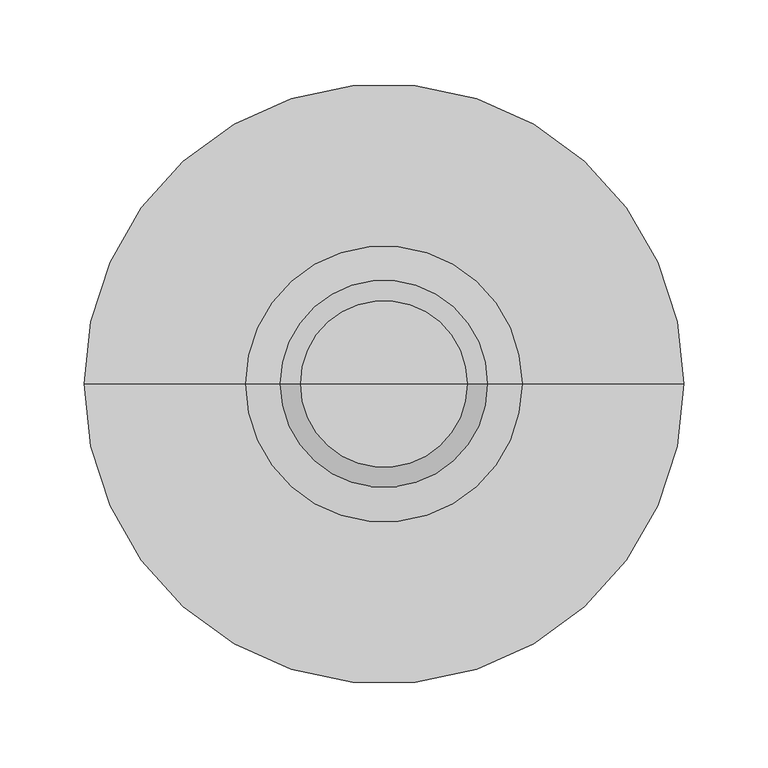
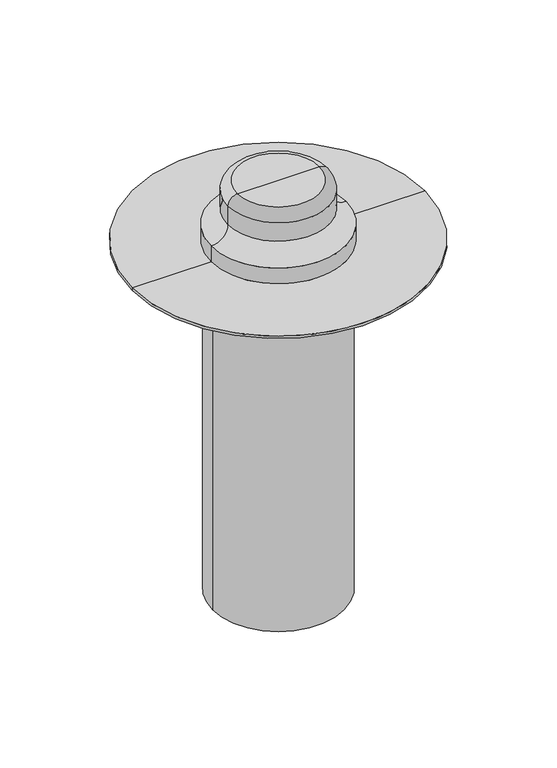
"""IFC4 building model written with IfcOpenShell, lengths in millimetres: flow terminal geometry, BIMLIB_Воронка_Кровельная_Fachmann_VM : 160х450."""

import ifcopenshell
import ifcopenshell.guid

model = None  # the IFC model being written
_history = None  # IfcOwnerHistory: only IFC2X3 demands one
_inside = {}  # id of a spatial element -> (the spatial element, [elements in it])
_under = {}  # id of a project, library or spatial element -> (it, [spatial elements below it])
_declared = {}  # id of a project -> (the project, [libraries it declares])
_typed = {}  # id of a type object -> (the type object, [elements of that type])
_made_of = {}  # id of a material, layer set ... -> (it, [elements and type objects made of it])


def new_model(schema):
    """Start an empty IFC model of exactly this schema.

    Asked for "IFC4X3", IfcOpenShell would pick the latest addendum, in which some entities
    have other attributes; the version numbers below select the first issue.
    IFC2X3 requires an IfcOwnerHistory on every rooted entity: one is made here for all.
    """
    global model, _history
    if schema == "IFC4X3":
        model = ifcopenshell.file(schema_version=(4, 3, 0, 0))
    else:
        model = ifcopenshell.file(schema=schema)
    _inside.clear()
    _under.clear()
    _declared.clear()
    _typed.clear()
    _made_of.clear()
    _history = None
    if model.schema == "IFC2X3":
        org = make("IfcOrganization", Name="unknown")
        user = make(
            "IfcPersonAndOrganization",
            ThePerson=make("IfcPerson", FamilyName="unknown"),
            TheOrganization=org,
        )
        app = make(
            "IfcApplication",
            ApplicationDeveloper=org,
            Version="unknown",
            ApplicationFullName="unknown",
            ApplicationIdentifier="unknown",
        )
        _history = make(
            "IfcOwnerHistory",
            OwningUser=user,
            OwningApplication=app,
            ChangeAction="ADDED",
            CreationDate=0,
        )
    return model


def make(cls, **values):
    """One entity of the class cls with the attributes given. An attribute that is None is left unset."""
    return model.create_entity(
        cls, **{name: value for name, value in values.items() if value is not None}
    )


def rooted(cls, **values):
    """An entity with a GlobalId (a new one), such as an element, a storey or a relation."""
    return make(cls, GlobalId=ifcopenshell.guid.new(), OwnerHistory=_history, **values)


def si_unit(unit_type, name, prefix=None):
    """IfcSIUnit, for example si_unit("LENGTHUNIT", "METRE", prefix="MILLI")."""
    return make("IfcSIUnit", UnitType=unit_type, Prefix=prefix, Name=name)


def assignment(units):
    """IfcUnitAssignment: the units of a project."""
    return None if units is None else make("IfcUnitAssignment", Units=units)


def point(xyz):
    """IfcCartesianPoint."""
    return None if xyz is None else make("IfcCartesianPoint", Coordinates=xyz)


def direction(xyz):
    """IfcDirection."""
    return None if xyz is None else make("IfcDirection", DirectionRatios=xyz)


def frame(location, z_axis=None, x_axis=None):
    """IfcAxis2Placement3D, a coordinate frame: its origin and axes. An axis left out is left unset."""
    return make(
        "IfcAxis2Placement3D",
        Location=point(location),
        Axis=direction(z_axis),
        RefDirection=direction(x_axis),
    )


def origin():
    """The frame at (0, 0, 0) with its axes left unset."""
    return frame((0.0, 0.0, 0.0))


def origin_with_axes():
    """The frame at (0, 0, 0) with the z axis (0, 0, 1) and the x axis (1, 0, 0) written out."""
    return frame((0.0, 0.0, 0.0), z_axis=(0.0, 0.0, 1.0), x_axis=(1.0, 0.0, 0.0))


def place(relative_to, where):
    """IfcLocalPlacement: puts the frame where relative to a parent placement (None: the world)."""
    return make(
        "IfcLocalPlacement", PlacementRelTo=relative_to, RelativePlacement=where
    )


def context(
    kind, dimensions, precision=None, world=None, true_north=None, identifier=None
):
    """IfcGeometricRepresentationContext, for example the 3D "Model" context."""
    return make(
        "IfcGeometricRepresentationContext",
        ContextIdentifier=identifier,
        ContextType=kind,
        CoordinateSpaceDimension=dimensions,
        Precision=precision,
        WorldCoordinateSystem=world,
        TrueNorth=true_north,
    )


def project(units=None, contexts=None):
    """IfcProject with its units and contexts."""
    return rooted(
        "IfcProject",
        Name="project",
        RepresentationContexts=contexts,
        UnitsInContext=assignment(units),
    )


def spatial(cls, under=None, at=None, **own):
    """A site, building, storey or space (cls), placed at a placement, below another one or the project."""
    s = rooted(cls, ObjectPlacement=at, **own)
    if under is not None:
        _under.setdefault(under.id(), (under, []))[1].append(s)
    return s


def polyline(points):
    """IfcPolyline through the points."""
    return make("IfcPolyline", Points=[point(p) for p in points])


def circle_curve(where, radius):
    """IfcCircle in the frame where."""
    return make("IfcCircle", Position=where, Radius=radius)


def ellipse_curve(where, semi_axis1, semi_axis2):
    """IfcEllipse in the frame where."""
    return make(
        "IfcEllipse", Position=where, SemiAxis1=semi_axis1, SemiAxis2=semi_axis2
    )


def trimmed(basis, trim1, trim2, sense, master):
    """IfcTrimmedCurve: the piece of a basis curve between two trims."""
    return make(
        "IfcTrimmedCurve",
        BasisCurve=basis,
        Trim1=trim1,
        Trim2=trim2,
        SenseAgreement=sense,
        MasterRepresentation=master,
    )


def shape(context_of_items, identifier, shape_type, items):
    """IfcShapeRepresentation: the items that make up one representation, for example the "Body"."""
    return make(
        "IfcShapeRepresentation",
        ContextOfItems=context_of_items,
        RepresentationIdentifier=identifier,
        RepresentationType=shape_type,
        Items=items,
    )


def source(mapping_origin, context_of_items, identifier, shape_type, items):
    """IfcRepresentationMap: a shape defined once, which mapped items show again and again."""
    return make(
        "IfcRepresentationMap",
        MappingOrigin=mapping_origin,
        MappedRepresentation=shape(context_of_items, identifier, shape_type, items),
    )


def transform(
    local_origin,
    x_axis=None,
    y_axis=None,
    z_axis=None,
    scale=None,
    scale2=None,
    scale3=None,
    uniform=True,
):
    """IfcCartesianTransformationOperator3D, or its non-uniform kind. x_axis, y_axis, z_axis: its Axis1, 2, 3."""
    if uniform:
        return make(
            "IfcCartesianTransformationOperator3D",
            Axis1=direction(x_axis),
            Axis2=direction(y_axis),
            LocalOrigin=point(local_origin),
            Scale=scale,
            Axis3=direction(z_axis),
        )
    return make(
        "IfcCartesianTransformationOperator3DnonUniform",
        Axis1=direction(x_axis),
        Axis2=direction(y_axis),
        LocalOrigin=point(local_origin),
        Scale=scale,
        Axis3=direction(z_axis),
        Scale2=scale2,
        Scale3=scale3,
    )


def mapped(mapping_source, mapping_target):
    """IfcMappedItem: shows the shape of a source again, moved by a transform."""
    return make(
        "IfcMappedItem", MappingSource=mapping_source, MappingTarget=mapping_target
    )


def made_of(thing, what):
    """Note that an element or type object is made of a material, layer set ...; save() writes the relation."""
    if what is not None:
        _made_of.setdefault(what.id(), (what, []))[1].append(thing)
    return thing


def element(
    cls,
    number,
    at=None,
    inside=None,
    cuts=None,
    type_object=None,
    material=None,
    context=None,
    identifier="Body",
    shape_type=None,
    held_by="IfcProductDefinitionShape",
    body=None,
    shapes=None,
    **own,
):
    """One element of the class cls, such as IfcWall. Its Tag is "e" and its number.

    at: its placement. inside: the storey or other place that contains it. cuts: it is an
    opening in that element (IfcRelVoidsElement). A single representation is given by context,
    identifier, shape_type and body (its items); several are given by shapes. held_by: the class
    of the entity that holds the representations. save() writes the other relations.
    """
    e = rooted(cls, Tag="e%d" % number, ObjectPlacement=at, **own)
    if body is not None:
        shapes = [shape(context, identifier, shape_type, body)]
    if shapes is not None:
        e.Representation = make(held_by, Representations=shapes)
    if inside is not None:
        _inside.setdefault(inside.id(), (inside, []))[1].append(e)
    if cuts is not None:
        rooted(
            "IfcRelVoidsElement", RelatingBuildingElement=cuts, RelatedOpeningElement=e
        )
    if type_object is not None:
        _typed.setdefault(type_object.id(), (type_object, []))[1].append(e)
    return made_of(e, material)


def aggregate(whole, parts):
    """IfcRelAggregates: a whole, such as a stair, and the parts it consists of."""
    return rooted("IfcRelAggregates", RelatingObject=whole, RelatedObjects=parts)


def save(model, path):
    """Write the relations noted so far, then the file.

    IfcRelAggregates (storeys below a building ...), IfcRelContainedInSpatialStructure (elements
    in a storey), IfcRelDefinesByType, IfcRelAssociatesMaterial and IfcRelDeclares: one each for
    every whole, place, type object, material and project.
    """
    for whole, parts in _under.values():
        aggregate(whole, parts)
    for where, things in _inside.values():
        rooted(
            "IfcRelContainedInSpatialStructure",
            RelatedElements=things,
            RelatingStructure=where,
        )
    for kind, things in _typed.values():
        rooted("IfcRelDefinesByType", RelatedObjects=things, RelatingType=kind)
    for what, things in _made_of.values():
        rooted("IfcRelAssociatesMaterial", RelatedObjects=things, RelatingMaterial=what)
    for by, libraries in _declared.values():
        rooted("IfcRelDeclares", RelatingContext=by, RelatedDefinitions=libraries)
    model.write(path)


def plane_surface(at):
    """IfcPlane: the flat surface through the origin of the frame at, square to its z axis."""
    return make("IfcPlane", Position=at)


def cylinder_surface(at, radius):
    """IfcCylindricalSurface: all points at the distance radius from the z axis of the frame at."""
    return make("IfcCylindricalSurface", Position=at, Radius=radius)


def revolved_surface(curve, axis_point, axis_direction):
    """IfcSurfaceOfRevolution: the curve turned about the line through axis_point along axis_direction."""
    return make(
        "IfcSurfaceOfRevolution",
        SweptCurve=make("IfcArbitraryOpenProfileDef", ProfileType="CURVE", Curve=curve),
        AxisPosition=make("IfcAxis1Placement", Location=point(axis_point), Axis=direction(axis_direction)),
    )


def advanced_brep(points, edges, surfaces, faces):
    """IfcAdvancedBrep: a solid bounded by faces that lie on surfaces and meet in shared edges.

    An edge is (start, end): straight between two places in points (the first is 0);
    or (start, end, curve); or (start, end, curve, False) where it runs against its curve.
    A face is (place in surfaces, loops), or (place, loops, False) where it looks against
    its surface's normal. A loop lists edges by number (the first is 1), with a minus sign
    where the edge is run from its end to its start. The first loop is the outer one.
    """
    corners = [point(p) for p in points]
    vertices = [make("IfcVertexPoint", VertexGeometry=c) for c in corners]
    made = []
    for start, end, *more in edges:
        made.append(
            make(
                "IfcEdgeCurve",
                EdgeStart=vertices[start],
                EdgeEnd=vertices[end],
                EdgeGeometry=more[0] if more else make("IfcPolyline", Points=[corners[start], corners[end]]),
                SameSense=more[1] if len(more) > 1 else True,
            )
        )
    hull = []
    for where, loops, *sense in faces:
        bounds = []
        for j, loop in enumerate(loops):
            ring = [make("IfcOrientedEdge", EdgeElement=made[abs(k) - 1], Orientation=k > 0) for k in loop]
            bounds.append(
                make(
                    "IfcFaceOuterBound" if j == 0 else "IfcFaceBound",
                    Bound=make("IfcEdgeLoop", EdgeList=ring),
                    Orientation=True,
                )
            )
        hull.append(make("IfcAdvancedFace", Bounds=bounds, FaceSurface=surfaces[where], SameSense=sense[0] if sense else True))
    return make("IfcAdvancedBrep", Outer=make("IfcClosedShell", CfsFaces=hull))


def flow_terminal_511c6f57(model_context):
    return source(origin(), model_context, "Body", "AdvancedBrep", [
        advanced_brep(
        [(80.0, 0.0, -445.0), (-80.0, 0.0, -445.0), (-80.0, 0.0, -57.0), (80.0, 0.0, -57.0), (-113.0, 0.0, -9.0), (113.0, 0.0, -9.0), (113.0, 0.0, -32.0), (-113.0, 0.0, -32.0), (0.0, 0.0, 0.0), (138.0, 0.0, 0.0), (-138.0, 0.0, 0.0), (-90.0, 0.0, -32.0), (90.0, 0.0, -32.0), (90.0, 0.0, -40.0), (-90.0, 0.0, -40.0)],
        [
            (0, 1, circle_curve(frame((0.0, 0.0, -445.0), z_axis=(0.0, 0.0, -1.0), x_axis=(-1.0, 0.0, 0.0)), 80.0)),
            (1, 0, circle_curve(frame((0.0, 0.0, -445.0), z_axis=(0.0, 0.0, -1.0), x_axis=(-1.0, 0.0, 0.0)), 80.0)),
            (1, 2),
            (2, 3, circle_curve(frame((0.0, 0.0, -57.0), z_axis=(0.0, 0.0, -1.0), x_axis=(-1.0, 0.0, 0.0)), 80.0)),
            (3, 0),
            (3, 2, circle_curve(frame((0.0, 0.0, -57.0), z_axis=(0.0, 0.0, -1.0), x_axis=(-1.0, 0.0, 0.0)), 80.0)),
            (4, 5, circle_curve(frame((0.0, 0.0, -9.0), z_axis=(0.0, 0.0, -1.0), x_axis=(1.0, 0.0, 0.0)), 113.0)),
            (5, 6),
            (6, 7, circle_curve(frame((0.0, 0.0, -32.0), z_axis=(0.0, 0.0, 1.0), x_axis=(1.0, 0.0, 0.0)), 113.0)),
            (7, 4),
            (5, 4, circle_curve(frame((0.0, 0.0, -9.0), z_axis=(0.0, 0.0, -1.0), x_axis=(1.0, 0.0, 0.0)), 113.0)),
            (7, 6, circle_curve(frame((0.0, 0.0, -32.0), z_axis=(0.0, 0.0, 1.0), x_axis=(1.0, 0.0, 0.0)), 113.0)),
            (8, 9),
            (9, 10, circle_curve(origin_with_axes(), 138.0)),
            (10, 8),
            (10, 9, circle_curve(origin_with_axes(), 138.0)),
            (4, 10),
            (9, 5),
            (11, 12, circle_curve(frame((0.0, 0.0, -32.0), z_axis=(0.0, 0.0, -1.0), x_axis=(1.0, 0.0, 0.0)), 90.0)),
            (12, 13),
            (13, 14, circle_curve(frame((0.0, 0.0, -40.0), z_axis=(0.0, 0.0, 1.0), x_axis=(1.0, 0.0, 0.0)), 90.0)),
            (14, 11),
            (12, 11, circle_curve(frame((0.0, 0.0, -32.0), z_axis=(0.0, 0.0, -1.0), x_axis=(1.0, 0.0, 0.0)), 90.0)),
            (14, 13, circle_curve(frame((0.0, 0.0, -40.0), z_axis=(0.0, 0.0, 1.0), x_axis=(1.0, 0.0, 0.0)), 90.0)),
            (6, 12),
            (11, 7),
            (13, 3),
            (2, 14),
        ],
        [
            plane_surface(frame((-80.0, 0.0, -445.0), z_axis=(0.0, 0.0, -1.0), x_axis=(0.0, 1.0, 0.0))),
            cylinder_surface(frame((0.0, 0.0, -445.0), z_axis=(0.0, 0.0, 1.0), x_axis=(-1.0, 0.0, 0.0)), 80.0),
            cylinder_surface(frame((0.0, 0.0, 159.0), z_axis=(0.0, 0.0, 1.0), x_axis=(1.0, 0.0, 0.0)), 113.0),
            plane_surface(origin_with_axes()),
            revolved_surface(polyline([(113.0, 0.0, -9.0), (138.0, 0.0, 0.0)]), (0.0, 0.0, 159.0), (0.0, 0.0, 1.0)),
            cylinder_surface(frame((0.0, 0.0, 159.0), z_axis=(0.0, 0.0, 1.0), x_axis=(1.0, 0.0, 0.0)), 90.0),
            plane_surface(frame((0.0, 0.0, -32.0), z_axis=(0.0, 0.0, -1.0), x_axis=(1.0, 0.0, 0.0))),
            revolved_surface(polyline([(80.0, 0.0, -57.0), (90.0, 0.0, -40.0)]), (0.0, 0.0, 159.0), (0.0, 0.0, 1.0)),
        ],
        [
            (0, [[1, 2]]),
            (1, [[-2, 3, 4, 5]]),
            (1, [[-1, -5, 6, -3]]),
            (2, [[7, 8, 9, 10]]),
            (2, [[-8, 11, -10, 12]]),
            (3, [[13, 14, 15]]),
            (3, [[-13, -15, 16]]),
            (4, [[-7, 17, -14, 18]]),
            (4, [[-11, -18, -16, -17]]),
            (5, [[19, 20, 21, 22]]),
            (5, [[-20, 23, -22, 24]]),
            (6, [[-9, 25, -19, 26]]),
            (6, [[-12, -26, -23, -25]]),
            (7, [[-21, 27, -4, 28]]),
            (7, [[-24, -28, -6, -27]]),
        ],
    ),
        advanced_brep(
        [(0.0, 0.0, 79.0), (49.5, 0.0, 79.0), (-49.5, 0.0, 79.0), (-178.0, 0.0, 0.0), (178.0, 0.0, 0.0), (0.0, 0.0, 0.0), (-178.0, 0.0, 3.0), (178.0, 0.0, 3.0), (-82.0, 0.0, 3.0), (82.0, 0.0, 3.0), (-61.5, 0.0, 67.0), (61.5, 0.0, 67.0), (61.5, 0.0, 43.5), (-61.5, 0.0, 43.5), (-82.0, 0.0, 23.0), (82.0, 0.0, 23.0)],
        [
            (0, 1),
            (1, 2, circle_curve(frame((0.0, 0.0, 79.0), z_axis=(0.0, 0.0, 1.0), x_axis=(1.0, 0.0, 0.0)), 49.5)),
            (2, 0),
            (2, 1, circle_curve(frame((0.0, 0.0, 79.0), z_axis=(0.0, 0.0, 1.0), x_axis=(1.0, 0.0, 0.0)), 49.5)),
            (3, 4, circle_curve(frame((0.0, 0.0, 0.0), z_axis=(0.0, 0.0, -1.0), x_axis=(1.0, 0.0, 0.0)), 178.0)),
            (4, 5),
            (5, 3),
            (4, 3, circle_curve(frame((0.0, 0.0, 0.0), z_axis=(0.0, 0.0, -1.0), x_axis=(1.0, 0.0, 0.0)), 178.0)),
            (6, 7, circle_curve(frame((0.0, 0.0, 3.0), z_axis=(0.0, 0.0, -1.0), x_axis=(1.0, 0.0, 0.0)), 178.0)),
            (7, 4),
            (3, 6),
            (7, 6, circle_curve(frame((0.0, 0.0, 3.0), z_axis=(0.0, 0.0, -1.0), x_axis=(1.0, 0.0, 0.0)), 178.0)),
            (8, 9, circle_curve(frame((0.0, 0.0, 3.0), z_axis=(0.0, 0.0, -1.0), x_axis=(1.0, 0.0, 0.0)), 82.0)),
            (9, 7),
            (6, 8),
            (9, 8, circle_curve(frame((0.0, 0.0, 3.0), z_axis=(0.0, 0.0, -1.0), x_axis=(1.0, 0.0, 0.0)), 82.0)),
            (10, 11, circle_curve(frame((0.0, 0.0, 67.0), z_axis=(0.0, 0.0, -1.0), x_axis=(1.0, 0.0, 0.0)), 61.5)),
            (11, 12),
            (12, 13, circle_curve(frame((0.0, 0.0, 43.5), z_axis=(0.0, 0.0, 1.0), x_axis=(1.0, 0.0, 0.0)), 61.5)),
            (13, 10),
            (11, 10, circle_curve(frame((0.0, 0.0, 67.0), z_axis=(0.0, 0.0, -1.0), x_axis=(1.0, 0.0, 0.0)), 61.5)),
            (13, 12, circle_curve(frame((0.0, 0.0, 43.5), z_axis=(0.0, 0.0, 1.0), x_axis=(1.0, 0.0, 0.0)), 61.5)),
            (1, 11, circle_curve(frame((49.5, 0.0, 67.0), z_axis=(0.0, 1.0, 0.0), x_axis=(1.0, 0.0, 0.0)), 12.0)),
            (10, 2, circle_curve(frame((-49.5, 0.0, 67.0), z_axis=(0.0, 1.0, 0.0), x_axis=(-1.0, 0.0, 0.0)), 12.0)),
            (14, 15, circle_curve(frame((0.0, 0.0, 23.0), z_axis=(0.0, 0.0, -1.0), x_axis=(1.0, 0.0, 0.0)), 82.0)),
            (15, 9),
            (8, 14),
            (15, 14, circle_curve(frame((0.0, 0.0, 23.0), z_axis=(0.0, 0.0, -1.0), x_axis=(1.0, 0.0, 0.0)), 82.0)),
            (12, 15, circle_curve(frame((82.0, 0.0, 43.5), z_axis=(0.0, -1.0, 0.0), x_axis=(1.0, 0.0, 0.0)), 20.5)),
            (14, 13, circle_curve(frame((-82.0, 0.0, 43.5), z_axis=(0.0, -1.0, 0.0), x_axis=(-1.0, 0.0, 0.0)), 20.5)),
        ],
        [
            plane_surface(frame((0.0, 0.0, 79.0), z_axis=(0.0, 0.0, 1.0), x_axis=(1.0, 0.0, 0.0))),
            plane_surface(frame((0.0, 0.0, 0.0), z_axis=(0.0, 0.0, -1.0), x_axis=(1.0, 0.0, 0.0))),
            cylinder_surface(frame((0.0, 0.0, 229.0), z_axis=(0.0, 0.0, 1.0), x_axis=(1.0, 0.0, 0.0)), 178.0),
            plane_surface(frame((0.0, 0.0, 3.0), z_axis=(0.0, 0.0, 1.0), x_axis=(1.0, 0.0, 0.0))),
            cylinder_surface(frame((0.0, 0.0, 229.0), z_axis=(0.0, 0.0, 1.0), x_axis=(1.0, 0.0, 0.0)), 61.5),
            revolved_surface(trimmed(ellipse_curve(frame((49.5, 0.0, 67.0), z_axis=(0.0, -1.0, 0.0), x_axis=(1.0, 0.0, 0.0)), 12.0, 12.0), [point((61.5, 0.0, 67.0))], [point((49.5, 0.0, 79.0))], True, "CARTESIAN"), (0.0, 0.0, 229.0), (0.0, 0.0, 1.0)),
            cylinder_surface(frame((0.0, 0.0, 229.0), z_axis=(0.0, 0.0, 1.0), x_axis=(1.0, 0.0, 0.0)), 82.0),
            revolved_surface(trimmed(ellipse_curve(frame((82.0, 0.0, 43.5), z_axis=(0.0, 1.0, 0.0), x_axis=(1.0, 0.0, 0.0)), 20.5, 20.5), [point((82.0, 0.0, 23.0))], [point((61.5, 0.0, 43.5))], True, "CARTESIAN"), (0.0, 0.0, 229.0), (0.0, 0.0, 1.0)),
        ],
        [
            (0, [[1, 2, 3]]),
            (0, [[-3, 4, -1]]),
            (1, [[5, 6, 7]]),
            (1, [[8, -7, -6]]),
            (2, [[9, 10, -5, 11]]),
            (2, [[12, -11, -8, -10]]),
            (3, [[13, 14, -9, 15]]),
            (3, [[16, -15, -12, -14]]),
            (4, [[17, 18, 19, 20]]),
            (4, [[21, -20, 22, -18]]),
            (5, [[-2, 23, -17, 24]]),
            (5, [[-4, -24, -21, -23]]),
            (6, [[25, 26, -13, 27]]),
            (6, [[28, -27, -16, -26]]),
            (7, [[-19, 29, -25, 30]]),
            (7, [[-22, -30, -28, -29]]),
        ],
    ),
    ])


if __name__ == "__main__":
    model = new_model("IFC4")
    model_context = context("Model", 3, world=origin())
    ifc_project = project(units=[si_unit("LENGTHUNIT", "METRE", prefix="MILLI")], contexts=[model_context])
    site = spatial("IfcSite", under=ifc_project)
    building = spatial("IfcBuilding", under=site)
    placement = place(None, origin())
    flow_terminal_shape = flow_terminal_511c6f57(model_context)
    element("IfcFlowTerminal", 1, ObjectType="BIMLIB_Воронка_Кровельная_Fachmann_VM : 160х450", at=placement, inside=building, context=model_context, shape_type="MappedRepresentation", body=[
        mapped(flow_terminal_shape, transform((0.0, 0.0, 0.0), x_axis=(1.0, 0.0, 0.0), y_axis=(0.0, 1.0, 0.0), z_axis=(0.0, 0.0, 1.0))),
    ])
    save(model, "model.ifc")
